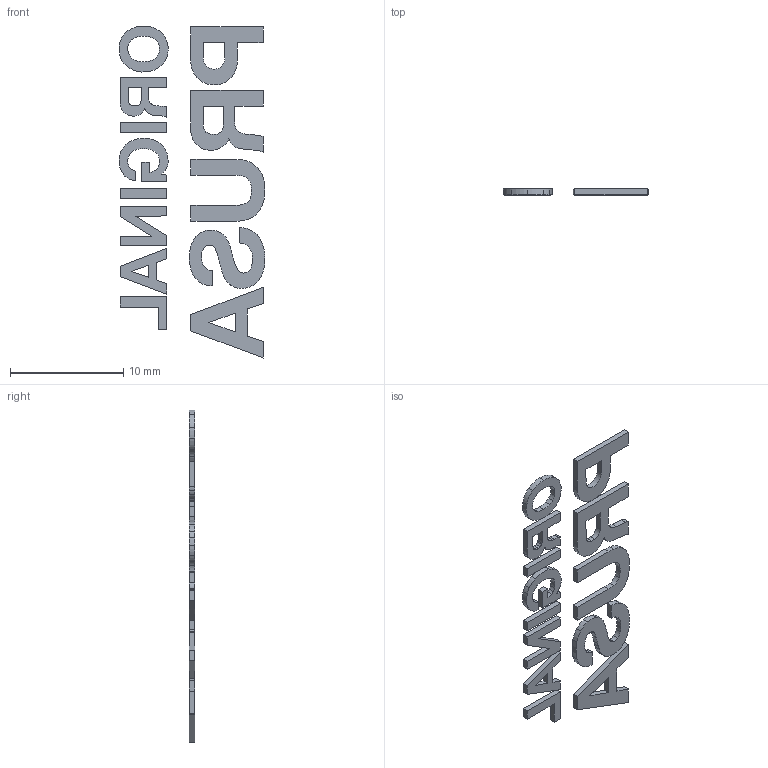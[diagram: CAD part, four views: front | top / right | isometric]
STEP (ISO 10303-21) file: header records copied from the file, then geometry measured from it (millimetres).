
FILE_DESCRIPTION(/* description */ ('STEP AP242','CAx-IF Rec.Pracs.---Representation and Presentation of Product Manufacturing Information (PMI)---4.0---2014-10-13','CAx-IF Rec.Pracs.---3D Tessellated Geometry---0.4---2014-09-14','2;1'),/* implementation_level */ '2;1');
FILE_NAME(/* name */ '643bf0fb44065c201b04e06b',/* time_stamp */ '2023-04-16T12:58:36+00:00',/* author */ (''),/* organization */ (''),/* preprocessor_version */ 'ST-DEVELOPER v18.102',/* originating_system */ ' ',/* authorisation */ ' ');
FILE_SCHEMA (('AP242_MANAGED_MODEL_BASED_3D_ENGINEERING_MIM_LF { 1 0 10303 442 1 1 4 }'));
Length unit declared in the file: metre
Products named in the file (13): Orginal; Prusa
Bounding box: 12.86 x 0.5 x 29.28 mm (x, y, z)
Volume: 77.9 mm3; surface area: 465.7 mm2
Topology: 13 solids, 13 shells, 265 faces, 717 edges, 478 vertices
Faces by surface type: cylinder 147, plane 118
Entity records: 8792 total; most frequent: DIRECTION 1567, CARTESIAN_POINT 1473, ORIENTED_EDGE 1434, EDGE_CURVE 717, AXIS2_PLACEMENT_3D 572, VERTEX_POINT 478, LINE 423, VECTOR 423
